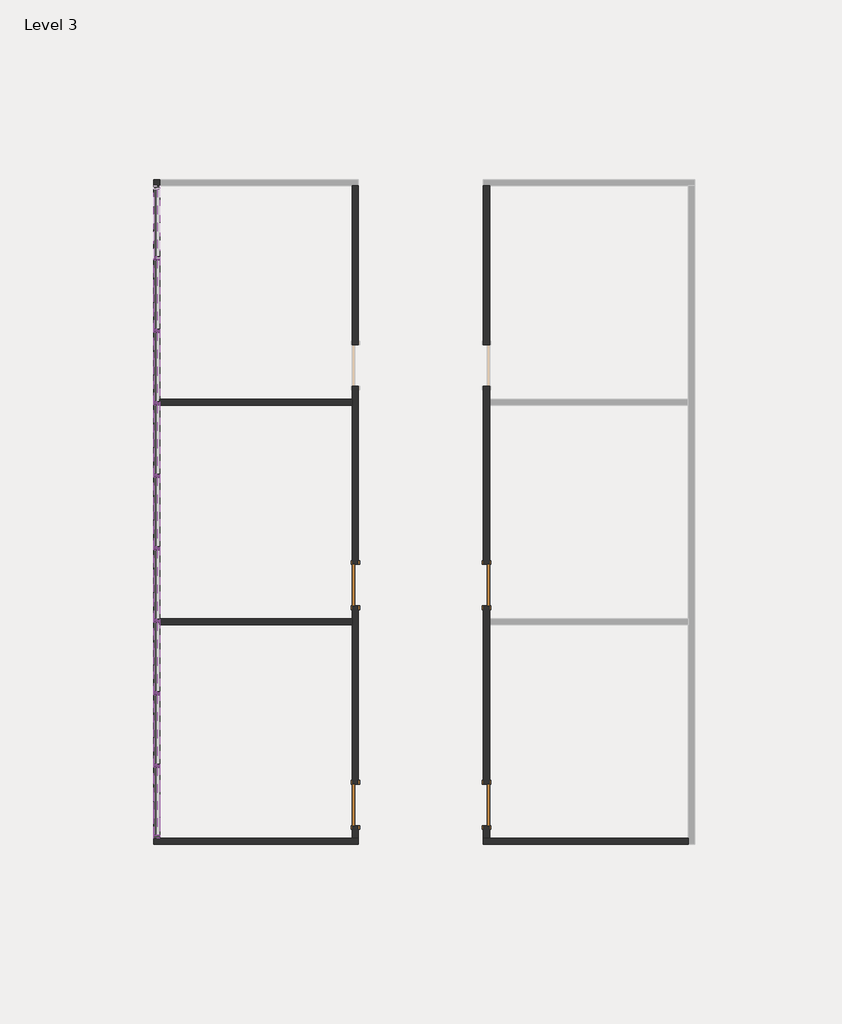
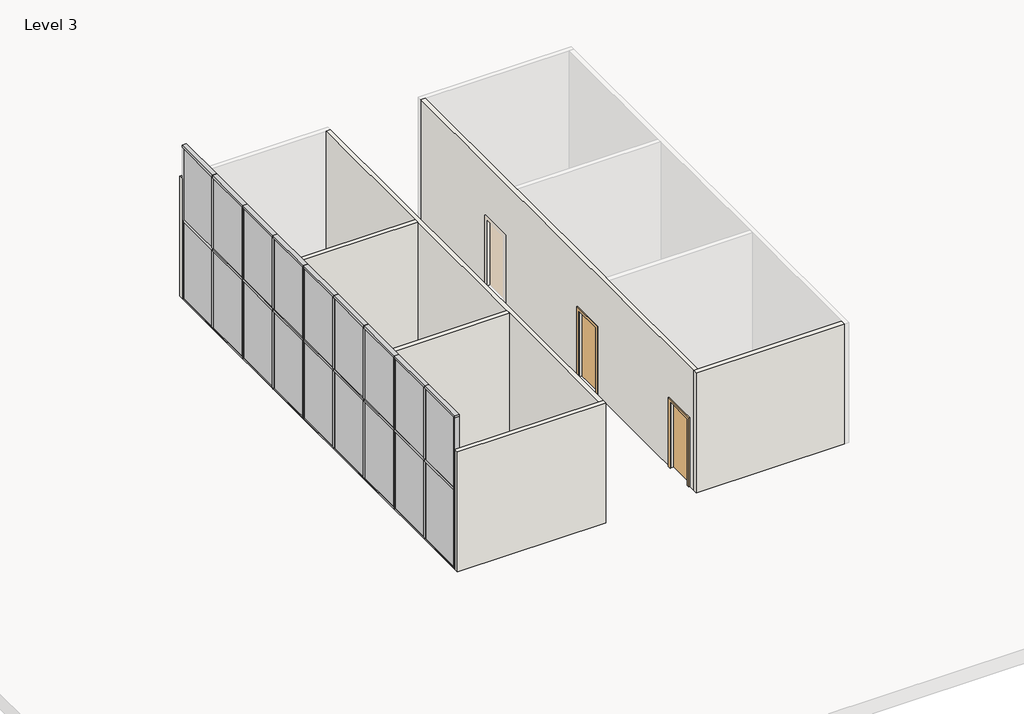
# One storey, part 1 of 2: 45 members, 18 plates, 7 walls, 4 doors.
"""IFC4 building model written with IfcOpenShell, lengths in millimetres."""

from ifc_helpers import new_model, si_unit, frame, origin, place, context, project, spatial, polyline, outline, extrude, faceted_brep, transform, mapped, element, save
from components import door_82111de5, door_92889684, member_fc09b6aa, member_9597caa3, member_b2bde9e6, member_131a91bd, member_8e4b14e5, member_6186cc23, member_73a57e35, system_panel_glazed_f771dc8d, system_panel_glazed_f1d9fa5b, system_panel_solid_9531ad7b, system_panel_solid_2d037642

model = new_model("IFC4")

# Units and contexts
model_context = context("Model", 3, world=origin())
ifc_project = project(units=[si_unit("LENGTHUNIT", "METRE", prefix="MILLI")], contexts=[model_context])

# Site, building, storey
site = spatial("IfcSite", under=ifc_project)
building = spatial("IfcBuilding", under=site)
storey = spatial("IfcBuildingStorey", under=building, Name="Level 3", Elevation=7315.2)

# Doors
placement = place(None, origin())
door_shape = door_82111de5(model_context)
element("IfcDoor", 1, ObjectType="Single-Flush : 34\" x 80\"", at=placement, inside=storey, context=model_context, shape_type="MappedRepresentation", body=[
    mapped(door_shape, transform((-51923.5856498, -16957.0103492, 7315.2), x_axis=(0.0, -1.0, 0.0), y_axis=(1.0, 0.0, 0.0), z_axis=(0.0, 0.0, 1.0))),
])
element("IfcDoor", 2, ObjectType="Single-Flush : 34\" x 80\"", at=placement, inside=storey, context=model_context, shape_type="MappedRepresentation", body=[
    mapped(door_shape, transform((-51923.5856498, -12385.0103492, 7315.2), x_axis=(0.0, -1.0, 0.0), y_axis=(1.0, 0.0, 0.0), z_axis=(0.0, 0.0, 1.0))),
])
door_2_shape = door_92889684(model_context)
element("IfcDoor", 3, ObjectType="Single-Flush : 34\" x 80\"", at=placement, inside=storey, context=model_context, shape_type="MappedRepresentation", body=[
    mapped(door_2_shape, transform((-49194.8999355, -16957.0103492, 7315.2), x_axis=(0.0, -1.0, 0.0), y_axis=(1.0, 0.0, 0.0), z_axis=(0.0, 0.0, 1.0))),
])
element("IfcDoor", 4, ObjectType="Single-Flush : 34\" x 80\"", at=placement, inside=storey, context=model_context, shape_type="MappedRepresentation", body=[
    mapped(door_2_shape, transform((-49194.8999355, -12385.0103492, 7315.2), x_axis=(0.0, -1.0, 0.0), y_axis=(1.0, 0.0, 0.0), z_axis=(0.0, 0.0, 1.0))),
])

# Members
member_shape = member_fc09b6aa(model_context)
element("IfcMember", 5, ObjectType="Rectangular Mullion : 2.5\" x 5\" rectangular", at=placement, inside=storey, context=model_context, shape_type="MappedRepresentation", body=[
    mapped(member_shape, transform((-56063.7856498, -14635.7325714, 9728.2), x_axis=(0.0, 0.0, 1.0), y_axis=(1.0, 0.0, 0.0), z_axis=(0.0, 1.0, 0.0))),
])
element("IfcMember", 6, ObjectType="Rectangular Mullion : 2.5\" x 5\" rectangular", at=placement, inside=storey, context=model_context, shape_type="MappedRepresentation", body=[
    mapped(member_shape, transform((-56063.7856498, -13125.8436825, 9728.2), x_axis=(0.0, 0.0, 1.0), y_axis=(1.0, 0.0, 0.0), z_axis=(0.0, 1.0, 0.0))),
])
element("IfcMember", 7, ObjectType="Rectangular Mullion : 2.5\" x 5\" rectangular", at=placement, inside=storey, context=model_context, shape_type="MappedRepresentation", body=[
    mapped(member_shape, transform((-56063.7856498, -11615.9547936, 9728.2), x_axis=(0.0, 0.0, 1.0), y_axis=(1.0, 0.0, 0.0), z_axis=(0.0, 1.0, 0.0))),
])
element("IfcMember", 8, ObjectType="Rectangular Mullion : 2.5\" x 5\" rectangular", at=placement, inside=storey, context=model_context, shape_type="MappedRepresentation", body=[
    mapped(member_shape, transform((-56063.7856498, -10106.0659048, 9728.2), x_axis=(0.0, 0.0, 1.0), y_axis=(1.0, 0.0, 0.0), z_axis=(0.0, 1.0, 0.0))),
])
element("IfcMember", 9, ObjectType="Rectangular Mullion : 2.5\" x 5\" rectangular", at=placement, inside=storey, context=model_context, shape_type="MappedRepresentation", body=[
    mapped(member_shape, transform((-56063.7856498, -8596.1770159, 9728.2), x_axis=(0.0, 0.0, 1.0), y_axis=(1.0, 0.0, 0.0), z_axis=(0.0, 1.0, 0.0))),
])
element("IfcMember", 10, ObjectType="Rectangular Mullion : 2.5\" x 5\" rectangular", at=placement, inside=storey, context=model_context, shape_type="MappedRepresentation", body=[
    mapped(member_shape, transform((-56063.7856498, -7086.288127, 9728.2), x_axis=(0.0, 0.0, 1.0), y_axis=(1.0, 0.0, 0.0), z_axis=(0.0, 1.0, 0.0))),
])
element("IfcMember", 11, ObjectType="Rectangular Mullion : 2.5\" x 5\" rectangular", at=placement, inside=storey, context=model_context, shape_type="MappedRepresentation", body=[
    mapped(member_shape, transform((-56063.7856498, -5576.3992381, 9728.2), x_axis=(0.0, 0.0, 1.0), y_axis=(1.0, 0.0, 0.0), z_axis=(0.0, 1.0, 0.0))),
])
member_2_shape = member_9597caa3(model_context)
element("IfcMember", 12, ObjectType="Rectangular Mullion : 2.5\" x 5\" rectangular", at=placement, inside=storey, context=model_context, shape_type="MappedRepresentation", body=[
    mapped(member_2_shape, transform((-56063.7856498, -16145.6214603, 7353.3), x_axis=(0.0, 1.0, 0.0), y_axis=(1.0, 0.0, 0.0), z_axis=(0.0, 0.0, -1.0))),
])
element("IfcMember", 13, ObjectType="Rectangular Mullion : 2.5\" x 5\" rectangular", at=placement, inside=storey, context=model_context, shape_type="MappedRepresentation", body=[
    mapped(member_2_shape, transform((-56063.7856498, -14635.7325714, 7353.3), x_axis=(0.0, 1.0, 0.0), y_axis=(1.0, 0.0, 0.0), z_axis=(0.0, 0.0, -1.0))),
])
element("IfcMember", 14, ObjectType="Rectangular Mullion : 2.5\" x 5\" rectangular", at=placement, inside=storey, context=model_context, shape_type="MappedRepresentation", body=[
    mapped(member_2_shape, transform((-56063.7856498, -13125.8436825, 7353.3), x_axis=(0.0, 1.0, 0.0), y_axis=(1.0, 0.0, 0.0), z_axis=(0.0, 0.0, -1.0))),
])
element("IfcMember", 15, ObjectType="Rectangular Mullion : 2.5\" x 5\" rectangular", at=placement, inside=storey, context=model_context, shape_type="MappedRepresentation", body=[
    mapped(member_2_shape, transform((-56063.7856498, -11615.9547936, 7353.3), x_axis=(0.0, 1.0, 0.0), y_axis=(1.0, 0.0, 0.0), z_axis=(0.0, 0.0, -1.0))),
])
element("IfcMember", 16, ObjectType="Rectangular Mullion : 2.5\" x 5\" rectangular", at=placement, inside=storey, context=model_context, shape_type="MappedRepresentation", body=[
    mapped(member_2_shape, transform((-56063.7856498, -10106.0659048, 7353.3), x_axis=(0.0, 1.0, 0.0), y_axis=(1.0, 0.0, 0.0), z_axis=(0.0, 0.0, -1.0))),
])
element("IfcMember", 17, ObjectType="Rectangular Mullion : 2.5\" x 5\" rectangular", at=placement, inside=storey, context=model_context, shape_type="MappedRepresentation", body=[
    mapped(member_2_shape, transform((-56063.7856498, -8596.1770159, 7353.3), x_axis=(0.0, 1.0, 0.0), y_axis=(1.0, 0.0, 0.0), z_axis=(0.0, 0.0, -1.0))),
])
element("IfcMember", 18, ObjectType="Rectangular Mullion : 2.5\" x 5\" rectangular", at=placement, inside=storey, context=model_context, shape_type="MappedRepresentation", body=[
    mapped(member_2_shape, transform((-56063.7856498, -7086.288127, 7353.3), x_axis=(0.0, 1.0, 0.0), y_axis=(1.0, 0.0, 0.0), z_axis=(0.0, 0.0, -1.0))),
])
element("IfcMember", 19, ObjectType="Rectangular Mullion : 2.5\" x 5\" rectangular", at=placement, inside=storey, context=model_context, shape_type="MappedRepresentation", body=[
    mapped(member_2_shape, transform((-56063.7856498, -5576.3992381, 7353.3), x_axis=(0.0, 1.0, 0.0), y_axis=(1.0, 0.0, 0.0), z_axis=(0.0, 0.0, -1.0))),
])
member_3_shape = member_b2bde9e6(model_context)
element("IfcMember", 20, ObjectType="Rectangular Mullion : 2.5\" x 5\" rectangular", at=placement, inside=storey, context=model_context, shape_type="MappedRepresentation", body=[
    mapped(member_3_shape, transform((-56063.7856498, -4066.5103492, 7353.3), x_axis=(0.0, 1.0, 0.0), y_axis=(1.0, 0.0, 0.0), z_axis=(0.0, 0.0, -1.0))),
])
element("IfcMember", 21, ObjectType="Rectangular Mullion : 2.5\" x 5\" rectangular", at=placement, inside=storey, context=model_context, shape_type="MappedRepresentation", body=[
    mapped(member_3_shape, transform((-56063.7856498, -17655.5103492, 9728.2), x_axis=(0.0, -1.0, 0.0), y_axis=(1.0, 0.0, 0.0), z_axis=(0.0, 0.0, 1.0))),
])
member_4_shape = member_131a91bd(model_context)
element("IfcMember", 22, ObjectType="Rectangular Mullion : 2.5\" x 5\" rectangular", at=placement, inside=storey, context=model_context, shape_type="MappedRepresentation", body=[
    mapped(member_4_shape, transform((-56063.7856498, -4066.5103492, 11988.8), x_axis=(0.0, 0.0, 1.0), y_axis=(1.0, 0.0, 0.0), z_axis=(0.0, 1.0, 0.0))),
])
element("IfcMember", 23, ObjectType="Rectangular Mullion : 2.5\" x 5\" rectangular", at=placement, inside=storey, context=model_context, shape_type="MappedRepresentation", body=[
    mapped(member_4_shape, transform((-56063.7856498, -16145.6214603, 11988.8), x_axis=(0.0, 0.0, 1.0), y_axis=(1.0, 0.0, 0.0), z_axis=(0.0, 1.0, 0.0))),
])
element("IfcMember", 24, ObjectType="Rectangular Mullion : 2.5\" x 5\" rectangular", at=placement, inside=storey, context=model_context, shape_type="MappedRepresentation", body=[
    mapped(member_4_shape, transform((-56063.7856498, -14635.7325714, 11988.8), x_axis=(0.0, 0.0, 1.0), y_axis=(1.0, 0.0, 0.0), z_axis=(0.0, 1.0, 0.0))),
])
element("IfcMember", 25, ObjectType="Rectangular Mullion : 2.5\" x 5\" rectangular", at=placement, inside=storey, context=model_context, shape_type="MappedRepresentation", body=[
    mapped(member_4_shape, transform((-56063.7856498, -13125.8436825, 11988.8), x_axis=(0.0, 0.0, 1.0), y_axis=(1.0, 0.0, 0.0), z_axis=(0.0, 1.0, 0.0))),
])
element("IfcMember", 26, ObjectType="Rectangular Mullion : 2.5\" x 5\" rectangular", at=placement, inside=storey, context=model_context, shape_type="MappedRepresentation", body=[
    mapped(member_4_shape, transform((-56063.7856498, -11615.9547936, 11988.8), x_axis=(0.0, 0.0, 1.0), y_axis=(1.0, 0.0, 0.0), z_axis=(0.0, 1.0, 0.0))),
])
element("IfcMember", 27, ObjectType="Rectangular Mullion : 2.5\" x 5\" rectangular", at=placement, inside=storey, context=model_context, shape_type="MappedRepresentation", body=[
    mapped(member_4_shape, transform((-56063.7856498, -10106.0659048, 11988.8), x_axis=(0.0, 0.0, 1.0), y_axis=(1.0, 0.0, 0.0), z_axis=(0.0, 1.0, 0.0))),
])
element("IfcMember", 28, ObjectType="Rectangular Mullion : 2.5\" x 5\" rectangular", at=placement, inside=storey, context=model_context, shape_type="MappedRepresentation", body=[
    mapped(member_4_shape, transform((-56063.7856498, -8596.1770159, 11988.8), x_axis=(0.0, 0.0, 1.0), y_axis=(1.0, 0.0, 0.0), z_axis=(0.0, 1.0, 0.0))),
])
element("IfcMember", 29, ObjectType="Rectangular Mullion : 2.5\" x 5\" rectangular", at=placement, inside=storey, context=model_context, shape_type="MappedRepresentation", body=[
    mapped(member_4_shape, transform((-56063.7856498, -7086.288127, 11988.8), x_axis=(0.0, 0.0, 1.0), y_axis=(1.0, 0.0, 0.0), z_axis=(0.0, 1.0, 0.0))),
])
element("IfcMember", 30, ObjectType="Rectangular Mullion : 2.5\" x 5\" rectangular", at=placement, inside=storey, context=model_context, shape_type="MappedRepresentation", body=[
    mapped(member_4_shape, transform((-56063.7856498, -5576.3992381, 11988.8), x_axis=(0.0, 0.0, 1.0), y_axis=(1.0, 0.0, 0.0), z_axis=(0.0, 1.0, 0.0))),
])
element("IfcMember", 31, ObjectType="Rectangular Mullion : 2.5\" x 5\" rectangular", at=placement, inside=storey, context=model_context, shape_type="MappedRepresentation", body=[
    mapped(member_4_shape, transform((-56063.7856498, -17655.5103492, 7289.8), x_axis=(0.0, 0.0, -1.0), y_axis=(1.0, 0.0, 0.0), z_axis=(0.0, -1.0, 0.0))),
])
element("IfcMember", 32, ObjectType="Rectangular Mullion : 2.5\" x 5\" rectangular", at=placement, inside=storey, context=model_context, shape_type="MappedRepresentation", body=[
    mapped(member_4_shape, transform((-56063.7856498, -16145.6214603, 7289.8), x_axis=(0.0, 0.0, -1.0), y_axis=(1.0, 0.0, 0.0), z_axis=(0.0, -1.0, 0.0))),
])
element("IfcMember", 33, ObjectType="Rectangular Mullion : 2.5\" x 5\" rectangular", at=placement, inside=storey, context=model_context, shape_type="MappedRepresentation", body=[
    mapped(member_4_shape, transform((-56063.7856498, -14635.7325714, 7289.8), x_axis=(0.0, 0.0, -1.0), y_axis=(1.0, 0.0, 0.0), z_axis=(0.0, -1.0, 0.0))),
])
element("IfcMember", 34, ObjectType="Rectangular Mullion : 2.5\" x 5\" rectangular", at=placement, inside=storey, context=model_context, shape_type="MappedRepresentation", body=[
    mapped(member_4_shape, transform((-56063.7856498, -13125.8436825, 7289.8), x_axis=(0.0, 0.0, -1.0), y_axis=(1.0, 0.0, 0.0), z_axis=(0.0, -1.0, 0.0))),
])
element("IfcMember", 35, ObjectType="Rectangular Mullion : 2.5\" x 5\" rectangular", at=placement, inside=storey, context=model_context, shape_type="MappedRepresentation", body=[
    mapped(member_4_shape, transform((-56063.7856498, -11615.9547936, 7289.8), x_axis=(0.0, 0.0, -1.0), y_axis=(1.0, 0.0, 0.0), z_axis=(0.0, -1.0, 0.0))),
])
element("IfcMember", 36, ObjectType="Rectangular Mullion : 2.5\" x 5\" rectangular", at=placement, inside=storey, context=model_context, shape_type="MappedRepresentation", body=[
    mapped(member_4_shape, transform((-56063.7856498, -10106.0659048, 7289.8), x_axis=(0.0, 0.0, -1.0), y_axis=(1.0, 0.0, 0.0), z_axis=(0.0, -1.0, 0.0))),
])
element("IfcMember", 37, ObjectType="Rectangular Mullion : 2.5\" x 5\" rectangular", at=placement, inside=storey, context=model_context, shape_type="MappedRepresentation", body=[
    mapped(member_4_shape, transform((-56063.7856498, -8596.1770159, 7289.8), x_axis=(0.0, 0.0, -1.0), y_axis=(1.0, 0.0, 0.0), z_axis=(0.0, -1.0, 0.0))),
])
element("IfcMember", 38, ObjectType="Rectangular Mullion : 2.5\" x 5\" rectangular", at=placement, inside=storey, context=model_context, shape_type="MappedRepresentation", body=[
    mapped(member_4_shape, transform((-56063.7856498, -7086.288127, 7289.8), x_axis=(0.0, 0.0, -1.0), y_axis=(1.0, 0.0, 0.0), z_axis=(0.0, -1.0, 0.0))),
])
element("IfcMember", 39, ObjectType="Rectangular Mullion : 2.5\" x 5\" rectangular", at=placement, inside=storey, context=model_context, shape_type="MappedRepresentation", body=[
    mapped(member_4_shape, transform((-56063.7856498, -5576.3992381, 7289.8), x_axis=(0.0, 0.0, -1.0), y_axis=(1.0, 0.0, 0.0), z_axis=(0.0, -1.0, 0.0))),
])
member_5_shape = member_8e4b14e5(model_context)
element("IfcMember", 40, ObjectType="Rectangular Mullion : 2.5\" x 5\" rectangular", at=placement, inside=storey, context=model_context, shape_type="MappedRepresentation", body=[
    mapped(member_5_shape, transform((-56063.7856498, -16145.6214603, 9728.2), x_axis=(0.0, 0.0, 1.0), y_axis=(1.0, 0.0, 0.0), z_axis=(0.0, 1.0, 0.0))),
])
member_6_shape = member_6186cc23(model_context)
element("IfcMember", 41, ObjectType="Rectangular Mullion : 2.5\" x 5\" rectangular", at=placement, inside=storey, context=model_context, shape_type="MappedRepresentation", body=[
    mapped(member_6_shape, transform((-56063.7856498, -16145.6214603, 9759.95), x_axis=(0.0, 1.0, 0.0), y_axis=(1.0, 0.0, 0.0), z_axis=(0.0, 0.0, -1.0))),
])
element("IfcMember", 42, ObjectType="Rectangular Mullion : 2.5\" x 5\" rectangular", at=placement, inside=storey, context=model_context, shape_type="MappedRepresentation", body=[
    mapped(member_6_shape, transform((-56063.7856498, -14635.7325714, 9759.95), x_axis=(0.0, 1.0, 0.0), y_axis=(1.0, 0.0, 0.0), z_axis=(0.0, 0.0, -1.0))),
])
element("IfcMember", 43, ObjectType="Rectangular Mullion : 2.5\" x 5\" rectangular", at=placement, inside=storey, context=model_context, shape_type="MappedRepresentation", body=[
    mapped(member_6_shape, transform((-56063.7856498, -13125.8436825, 9759.95), x_axis=(0.0, 1.0, 0.0), y_axis=(1.0, 0.0, 0.0), z_axis=(0.0, 0.0, -1.0))),
])
element("IfcMember", 44, ObjectType="Rectangular Mullion : 2.5\" x 5\" rectangular", at=placement, inside=storey, context=model_context, shape_type="MappedRepresentation", body=[
    mapped(member_6_shape, transform((-56063.7856498, -11615.9547936, 9759.95), x_axis=(0.0, 1.0, 0.0), y_axis=(1.0, 0.0, 0.0), z_axis=(0.0, 0.0, -1.0))),
])
element("IfcMember", 45, ObjectType="Rectangular Mullion : 2.5\" x 5\" rectangular", at=placement, inside=storey, context=model_context, shape_type="MappedRepresentation", body=[
    mapped(member_6_shape, transform((-56063.7856498, -10106.0659048, 9759.95), x_axis=(0.0, 1.0, 0.0), y_axis=(1.0, 0.0, 0.0), z_axis=(0.0, 0.0, -1.0))),
])
element("IfcMember", 46, ObjectType="Rectangular Mullion : 2.5\" x 5\" rectangular", at=placement, inside=storey, context=model_context, shape_type="MappedRepresentation", body=[
    mapped(member_6_shape, transform((-56063.7856498, -8596.1770159, 9759.95), x_axis=(0.0, 1.0, 0.0), y_axis=(1.0, 0.0, 0.0), z_axis=(0.0, 0.0, -1.0))),
])
element("IfcMember", 47, ObjectType="Rectangular Mullion : 2.5\" x 5\" rectangular", at=placement, inside=storey, context=model_context, shape_type="MappedRepresentation", body=[
    mapped(member_6_shape, transform((-56063.7856498, -7086.288127, 9759.95), x_axis=(0.0, 1.0, 0.0), y_axis=(1.0, 0.0, 0.0), z_axis=(0.0, 0.0, -1.0))),
])
element("IfcMember", 48, ObjectType="Rectangular Mullion : 2.5\" x 5\" rectangular", at=placement, inside=storey, context=model_context, shape_type="MappedRepresentation", body=[
    mapped(member_6_shape, transform((-56063.7856498, -5576.3992381, 9759.95), x_axis=(0.0, 1.0, 0.0), y_axis=(1.0, 0.0, 0.0), z_axis=(0.0, 0.0, -1.0))),
])
member_7_shape = member_73a57e35(model_context)
element("IfcMember", 49, ObjectType="Rectangular Mullion : 2.5\" x 5\" rectangular", at=placement, inside=storey, context=model_context, shape_type="MappedRepresentation", body=[
    mapped(member_7_shape, transform((-56063.7856498, -17655.5103492, 11925.3), x_axis=(0.0, -1.0, 0.0), y_axis=(1.0, 0.0, 0.0), z_axis=(0.0, 0.0, 1.0))),
])

# Plates
system_panel_glazed_shape = system_panel_glazed_f771dc8d(model_context)
element("IfcPlate", 50, ObjectType="System Panel : Glazed", at=placement, inside=storey, context=model_context, shape_type="MappedRepresentation", body=[
    mapped(system_panel_glazed_shape, transform((-56063.7856498, -16884.6909048, 7353.3), x_axis=(0.0, 1.0, 0.0), y_axis=(-1.0, 0.0, 0.0), z_axis=(0.0, 0.0, 1.0))),
])
element("IfcPlate", 51, ObjectType="System Panel : Glazed", at=placement, inside=storey, context=model_context, shape_type="MappedRepresentation", body=[
    mapped(system_panel_glazed_shape, transform((-56063.7856498, -4837.3297936, 7353.3), x_axis=(0.0, 1.0, 0.0), y_axis=(-1.0, 0.0, 0.0), z_axis=(0.0, 0.0, 1.0))),
])
system_panel_glazed_2_shape = system_panel_glazed_f1d9fa5b(model_context)
element("IfcPlate", 52, ObjectType="System Panel : Glazed", at=placement, inside=storey, context=model_context, shape_type="MappedRepresentation", body=[
    mapped(system_panel_glazed_2_shape, transform((-56063.7856498, -15390.6770159, 7353.3), x_axis=(0.0, 1.0, 0.0), y_axis=(-1.0, 0.0, 0.0), z_axis=(0.0, 0.0, 1.0))),
])
element("IfcPlate", 53, ObjectType="System Panel : Glazed", at=placement, inside=storey, context=model_context, shape_type="MappedRepresentation", body=[
    mapped(system_panel_glazed_2_shape, transform((-56063.7856498, -13880.788127, 7353.3), x_axis=(0.0, 1.0, 0.0), y_axis=(-1.0, 0.0, 0.0), z_axis=(0.0, 0.0, 1.0))),
])
element("IfcPlate", 54, ObjectType="System Panel : Glazed", at=placement, inside=storey, context=model_context, shape_type="MappedRepresentation", body=[
    mapped(system_panel_glazed_2_shape, transform((-56063.7856498, -12370.8992381, 7353.3), x_axis=(0.0, 1.0, 0.0), y_axis=(-1.0, 0.0, 0.0), z_axis=(0.0, 0.0, 1.0))),
])
element("IfcPlate", 55, ObjectType="System Panel : Glazed", at=placement, inside=storey, context=model_context, shape_type="MappedRepresentation", body=[
    mapped(system_panel_glazed_2_shape, transform((-56063.7856498, -10861.0103492, 7353.3), x_axis=(0.0, 1.0, 0.0), y_axis=(-1.0, 0.0, 0.0), z_axis=(0.0, 0.0, 1.0))),
])
element("IfcPlate", 56, ObjectType="System Panel : Glazed", at=placement, inside=storey, context=model_context, shape_type="MappedRepresentation", body=[
    mapped(system_panel_glazed_2_shape, transform((-56063.7856498, -9351.1214603, 7353.3), x_axis=(0.0, 1.0, 0.0), y_axis=(-1.0, 0.0, 0.0), z_axis=(0.0, 0.0, 1.0))),
])
element("IfcPlate", 57, ObjectType="System Panel : Glazed", at=placement, inside=storey, context=model_context, shape_type="MappedRepresentation", body=[
    mapped(system_panel_glazed_2_shape, transform((-56063.7856498, -7841.2325714, 7353.3), x_axis=(0.0, 1.0, 0.0), y_axis=(-1.0, 0.0, 0.0), z_axis=(0.0, 0.0, 1.0))),
])
element("IfcPlate", 58, ObjectType="System Panel : Glazed", at=placement, inside=storey, context=model_context, shape_type="MappedRepresentation", body=[
    mapped(system_panel_glazed_2_shape, transform((-56063.7856498, -6331.3436825, 7353.3), x_axis=(0.0, 1.0, 0.0), y_axis=(-1.0, 0.0, 0.0), z_axis=(0.0, 0.0, 1.0))),
])
system_panel_solid_shape = system_panel_solid_9531ad7b(model_context)
element("IfcPlate", 59, ObjectType="System Panel : Solid", at=placement, inside=storey, context=model_context, shape_type="MappedRepresentation", body=[
    mapped(system_panel_solid_shape, transform((-56063.7856498, -16884.6909048, 9759.95), x_axis=(0.0, 1.0, 0.0), y_axis=(-1.0, 0.0, 0.0), z_axis=(0.0, 0.0, 1.0))),
])
element("IfcPlate", 60, ObjectType="System Panel : Solid", at=placement, inside=storey, context=model_context, shape_type="MappedRepresentation", body=[
    mapped(system_panel_solid_shape, transform((-56063.7856498, -4837.3297936, 9759.95), x_axis=(0.0, 1.0, 0.0), y_axis=(-1.0, 0.0, 0.0), z_axis=(0.0, 0.0, 1.0))),
])
system_panel_solid_2_shape = system_panel_solid_2d037642(model_context)
element("IfcPlate", 61, ObjectType="System Panel : Solid", at=placement, inside=storey, context=model_context, shape_type="MappedRepresentation", body=[
    mapped(system_panel_solid_2_shape, transform((-56063.7856498, -15390.6770159, 9759.95), x_axis=(0.0, 1.0, 0.0), y_axis=(-1.0, 0.0, 0.0), z_axis=(0.0, 0.0, 1.0))),
])
element("IfcPlate", 62, ObjectType="System Panel : Solid", at=placement, inside=storey, context=model_context, shape_type="MappedRepresentation", body=[
    mapped(system_panel_solid_2_shape, transform((-56063.7856498, -13880.788127, 9759.95), x_axis=(0.0, 1.0, 0.0), y_axis=(-1.0, 0.0, 0.0), z_axis=(0.0, 0.0, 1.0))),
])
element("IfcPlate", 63, ObjectType="System Panel : Solid", at=placement, inside=storey, context=model_context, shape_type="MappedRepresentation", body=[
    mapped(system_panel_solid_2_shape, transform((-56063.7856498, -12370.8992381, 9759.95), x_axis=(0.0, 1.0, 0.0), y_axis=(-1.0, 0.0, 0.0), z_axis=(0.0, 0.0, 1.0))),
])
element("IfcPlate", 64, ObjectType="System Panel : Solid", at=placement, inside=storey, context=model_context, shape_type="MappedRepresentation", body=[
    mapped(system_panel_solid_2_shape, transform((-56063.7856498, -10861.0103492, 9759.95), x_axis=(0.0, 1.0, 0.0), y_axis=(-1.0, 0.0, 0.0), z_axis=(0.0, 0.0, 1.0))),
])
element("IfcPlate", 65, ObjectType="System Panel : Solid", at=placement, inside=storey, context=model_context, shape_type="MappedRepresentation", body=[
    mapped(system_panel_solid_2_shape, transform((-56063.7856498, -9351.1214603, 9759.95), x_axis=(0.0, 1.0, 0.0), y_axis=(-1.0, 0.0, 0.0), z_axis=(0.0, 0.0, 1.0))),
])
element("IfcPlate", 66, ObjectType="System Panel : Solid", at=placement, inside=storey, context=model_context, shape_type="MappedRepresentation", body=[
    mapped(system_panel_solid_2_shape, transform((-56063.7856498, -7841.2325714, 9759.95), x_axis=(0.0, 1.0, 0.0), y_axis=(-1.0, 0.0, 0.0), z_axis=(0.0, 0.0, 1.0))),
])
element("IfcPlate", 67, ObjectType="System Panel : Solid", at=placement, inside=storey, context=model_context, shape_type="MappedRepresentation", body=[
    mapped(system_panel_solid_2_shape, transform((-56063.7856498, -6331.3436825, 9759.95), x_axis=(0.0, 1.0, 0.0), y_axis=(-1.0, 0.0, 0.0), z_axis=(0.0, 0.0, 1.0))),
])

# Walls
element("IfcWall", 68, ObjectType="Interior - Generic - 5\"", at=placement, inside=storey, context=model_context, shape_type="Brep", body=[
    faceted_brep([(-56127.2856498, -17782.5103492, 7315.2), (-51860.0856498, -17782.5103492, 7315.2), (-51860.0856498, -17782.5103492, 10972.8), (-56127.2856498, -17782.5103492, 10972.8), (-56127.2856498, -17655.5103492, 7315.2), (-56127.2856498, -17655.5103492, 10972.8), (-51987.0856498, -17655.5103492, 10972.8), (-51860.0856498, -17655.5103492, 10972.8), (-51860.0856498, -17655.5103492, 7315.2), (-51987.0856498, -17655.5103492, 7315.2)], [[[0, 1, 2, 3]], [[4, 5, 6, 7, 8, 9]], [[1, 0, 4, 9, 8]], [[3, 2, 7, 6, 5]], [[0, 3, 5, 4]], [[2, 1, 8, 7]]]),
])
element("IfcWall", 69, ObjectType="Interior - Generic - 5\"", at=placement, inside=storey, context=model_context, shape_type="SweptSolid", body=[
    extrude(outline(polyline([(-56127.2856498, -3939.5103492), (-56000.2856498, -3939.5103492), (-56000.2856498, -4066.5103492), (-56127.2856498, -4066.5103492), (-56127.2856498, -3939.5103492)])), frame((0.0, 0.0, 7315.2), z_axis=(0.0, 0.0, 1.0), x_axis=(1.0, 0.0, 0.0)), (0.0, 0.0, 1.0), 3657.6),
])
element("IfcWall", 70, ObjectType="Interior - Generic - 5\"", at=placement, inside=storey, context=model_context, shape_type="Brep", body=[
    faceted_brep([(-49131.3999355, -11953.2103492, 7315.2), (-49131.3999355, -8638.5103492, 7315.2), (-49131.3999355, -8511.5103492, 7315.2), (-49131.3999355, -8244.8103492, 7315.2), (-49131.3999355, -8244.8103492, 9347.2), (-49131.3999355, -7381.2103492, 9347.2), (-49131.3999355, -7381.2103492, 7315.2), (-49131.3999355, -4066.5103492, 7315.2), (-49131.3999355, -4066.5103492, 10972.8), (-49131.3999355, -8511.5103492, 10972.8), (-49131.3999355, -8638.5103492, 10972.8), (-49131.3999355, -13083.5103492, 10972.8), (-49131.3999355, -13210.5103492, 10972.8), (-49131.3999355, -17655.5103492, 10972.8), (-49131.3999355, -17655.5103492, 7315.2), (-49131.3999355, -17388.8103492, 7315.2), (-49131.3999355, -17388.8103492, 9347.2), (-49131.3999355, -16525.2103492, 9347.2), (-49131.3999355, -16525.2103492, 7315.2), (-49131.3999355, -13210.5103492, 7315.2), (-49131.3999355, -13083.5103492, 7315.2), (-49131.3999355, -12816.8103492, 7315.2), (-49131.3999355, -12816.8103492, 9347.2), (-49131.3999355, -11953.2103492, 9347.2), (-49258.3999355, -8244.8103492, 9347.2), (-49258.3999355, -8244.8103492, 7315.2), (-49258.3999355, -11953.2103492, 7315.2), (-49258.3999355, -11953.2103492, 9347.2), (-49258.3999355, -12816.8103492, 9347.2), (-49258.3999355, -12816.8103492, 7315.2), (-49258.3999355, -16525.2103492, 7315.2), (-49258.3999355, -16525.2103492, 9347.2), (-49258.3999355, -17388.8103492, 9347.2), (-49258.3999355, -17388.8103492, 7315.2), (-49258.3999355, -17655.5103492, 7315.2), (-49258.3999355, -17655.5103492, 10972.8), (-49258.3999355, -4066.5103492, 10972.8), (-49258.3999355, -4066.5103492, 7315.2), (-49258.3999355, -7381.2103492, 7315.2), (-49258.3999355, -7381.2103492, 9347.2)], [[[0, 1, 2, 3, 4, 5, 6, 7, 8, 9, 10, 11, 12, 13, 14, 15, 16, 17, 18, 19, 20, 21, 22, 23]], [[24, 25, 26, 27, 28, 29, 30, 31, 32, 33, 34, 35, 36, 37, 38, 39]], [[34, 33, 15, 14]], [[30, 29, 21, 20, 19, 18]], [[38, 37, 7, 6]], [[26, 25, 3, 2, 1, 0]], [[13, 12, 11, 10, 9, 8, 36, 35]], [[8, 7, 37, 36]], [[14, 13, 35, 34]], [[16, 15, 33, 32]], [[17, 16, 32, 31]], [[18, 17, 31, 30]], [[22, 21, 29, 28]], [[23, 22, 28, 27]], [[0, 23, 27, 26]], [[4, 3, 25, 24]], [[5, 4, 24, 39]], [[6, 5, 39, 38]]]),
])
element("IfcWall", 71, ObjectType="Interior - Generic - 5\"", at=placement, inside=storey, context=model_context, shape_type="Brep", body=[
    faceted_brep([(-51987.0856498, -8244.8103492, 9347.2), (-51987.0856498, -8244.8103492, 7315.2), (-51987.0856498, -8511.5103492, 7315.2), (-51987.0856498, -8638.5103492, 7315.2), (-51987.0856498, -11953.2103492, 7315.2), (-51987.0856498, -11953.2103492, 9347.2), (-51987.0856498, -12816.8103492, 9347.2), (-51987.0856498, -12816.8103492, 7315.2), (-51987.0856498, -13083.5103492, 7315.2), (-51987.0856498, -13210.5103492, 7315.2), (-51987.0856498, -16525.2103492, 7315.2), (-51987.0856498, -16525.2103492, 9347.2), (-51987.0856498, -17388.8103492, 9347.2), (-51987.0856498, -17388.8103492, 7315.2), (-51987.0856498, -17655.5103492, 7315.2), (-51987.0856498, -17655.5103492, 10972.8), (-51987.0856498, -13210.5103492, 10972.8), (-51987.0856498, -13083.5103492, 10972.8), (-51987.0856498, -8638.5103492, 10972.8), (-51987.0856498, -8511.5103492, 10972.8), (-51987.0856498, -4066.5103492, 10972.8), (-51987.0856498, -4066.5103492, 7315.2), (-51987.0856498, -7381.2103492, 7315.2), (-51987.0856498, -7381.2103492, 9347.2), (-51860.0856498, -11953.2103492, 7315.2), (-51860.0856498, -8244.8103492, 7315.2), (-51860.0856498, -8244.8103492, 9347.2), (-51860.0856498, -7381.2103492, 9347.2), (-51860.0856498, -7381.2103492, 7315.2), (-51860.0856498, -4066.5103492, 7315.2), (-51860.0856498, -4066.5103492, 10972.8), (-51860.0856498, -17655.5103492, 10972.8), (-51860.0856498, -17655.5103492, 7315.2), (-51860.0856498, -17388.8103492, 7315.2), (-51860.0856498, -17388.8103492, 9347.2), (-51860.0856498, -16525.2103492, 9347.2), (-51860.0856498, -16525.2103492, 7315.2), (-51860.0856498, -12816.8103492, 7315.2), (-51860.0856498, -12816.8103492, 9347.2), (-51860.0856498, -11953.2103492, 9347.2)], [[[0, 1, 2, 3, 4, 5, 6, 7, 8, 9, 10, 11, 12, 13, 14, 15, 16, 17, 18, 19, 20, 21, 22, 23]], [[24, 25, 26, 27, 28, 29, 30, 31, 32, 33, 34, 35, 36, 37, 38, 39]], [[14, 13, 33, 32]], [[10, 9, 8, 7, 37, 36]], [[22, 21, 29, 28]], [[4, 3, 2, 1, 25, 24]], [[20, 19, 18, 17, 16, 15, 31, 30]], [[21, 20, 30, 29]], [[15, 14, 32, 31]], [[34, 33, 13, 12]], [[35, 34, 12, 11]], [[36, 35, 11, 10]], [[38, 37, 7, 6]], [[39, 38, 6, 5]], [[24, 39, 5, 4]], [[26, 25, 1, 0]], [[27, 26, 0, 23]], [[28, 27, 23, 22]]]),
])
element("IfcWall", 72, ObjectType="Interior - Generic - 5\"", at=placement, inside=storey, context=model_context, shape_type="Brep", body=[
    faceted_brep([(-49258.3999355, -17782.5103492, 7315.2), (-44991.1999355, -17782.5103492, 7315.2), (-44991.1999355, -17782.5103492, 10972.8), (-49258.3999355, -17782.5103492, 10972.8), (-49258.3999355, -17655.5103492, 7315.2), (-49258.3999355, -17655.5103492, 10972.8), (-49131.3999355, -17655.5103492, 10972.8), (-44991.1999355, -17655.5103492, 10972.8), (-44991.1999355, -17655.5103492, 7315.2), (-49131.3999355, -17655.5103492, 7315.2)], [[[0, 1, 2, 3]], [[4, 5, 6, 7, 8, 9]], [[1, 0, 4, 9, 8]], [[3, 2, 7, 6, 5]], [[2, 1, 8, 7]], [[0, 3, 5, 4]]]),
])
element("IfcWall", 73, ObjectType="Interior - Generic - 5\"", at=placement, inside=storey, context=model_context, shape_type="SweptSolid", body=[
    extrude(outline(polyline([(-56000.2856498, -13083.5103492), (-51987.0856498, -13083.5103492), (-51987.0856498, -13210.5103492), (-56000.2856498, -13210.5103492), (-56000.2856498, -13083.5103492)])), frame((0.0, 0.0, 7315.2), z_axis=(0.0, 0.0, 1.0), x_axis=(1.0, 0.0, 0.0)), (0.0, 0.0, 1.0), 3657.6),
])
element("IfcWall", 74, ObjectType="Interior - Generic - 5\"", at=placement, inside=storey, context=model_context, shape_type="SweptSolid", body=[
    extrude(outline(polyline([(-56000.2856498, -8511.5103492), (-51987.0856498, -8511.5103492), (-51987.0856498, -8638.5103492), (-56000.2856498, -8638.5103492), (-56000.2856498, -8511.5103492)])), frame((0.0, 0.0, 7315.2), z_axis=(0.0, 0.0, 1.0), x_axis=(1.0, 0.0, 0.0)), (0.0, 0.0, 1.0), 3657.6),
])

save(model, "model.ifc")
